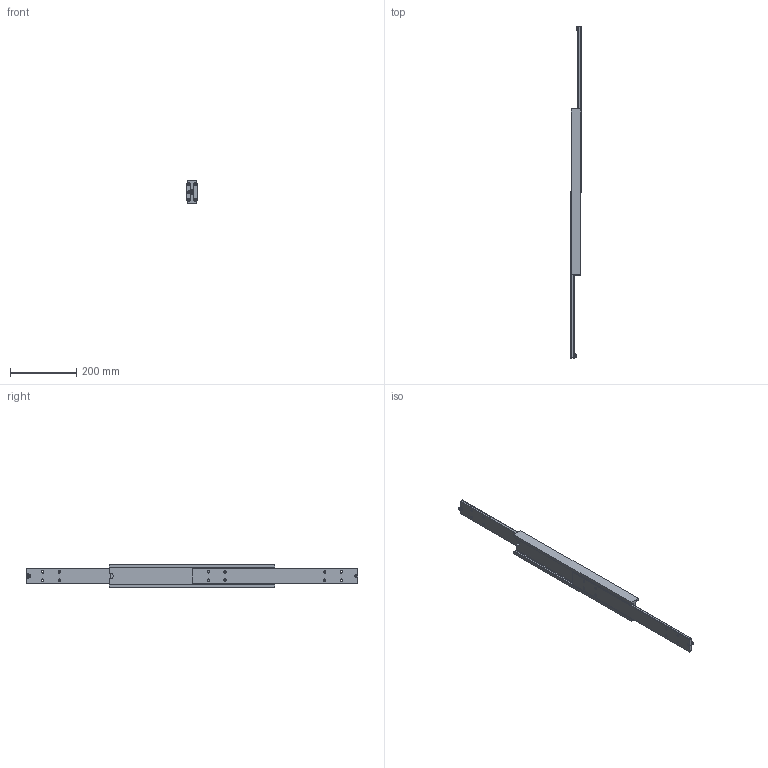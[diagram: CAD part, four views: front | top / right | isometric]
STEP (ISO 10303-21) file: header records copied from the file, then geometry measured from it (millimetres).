
FILE_DESCRIPTION(/* description */ (''),/* implementation_level */ '2;1');
FILE_NAME(/* name */ 'D:\Zeichnungen Schienen Komplett\MX-DTP70\MX-DTP70.050\MX-DTP70.050_ausgefahren.step',/* time_stamp */ '2022-08-30T08:51:35+02:00',/* author */ ('zmile'),/* organization */ (''),/* preprocessor_version */ 'ST-DEVELOPER v16.13',/* originating_system */ 'AutoCAD Mechanical',/* authorisation */ '');
FILE_SCHEMA (('AUTOMOTIVE_DESIGN { 1 0 10303 214 3 1 1 }'));
Products named in the file (1): Product
Bounding box: 32 x 1000 x 70 mm (x, y, z)
Volume: 884130.1 mm3; surface area: 320230.4 mm2
Topology: 39 solids, 39 shells, 250 faces, 688 edges, 456 vertices
Faces by surface type: plane 86, cylinder 64, bspline 62, sphere 32, torus 6
Full cylindrical faces by diameter (mm): 9 x32, 13 x2
Entity records: 135629 total; most frequent: CARTESIAN_POINT 129907, ORIENTED_EDGE 1164, DIRECTION 934, EDGE_CURVE 582, VERTEX_POINT 454, EDGE_LOOP 394, AXIS2_PLACEMENT_3D 361, FACE_OUTER_BOUND 250
